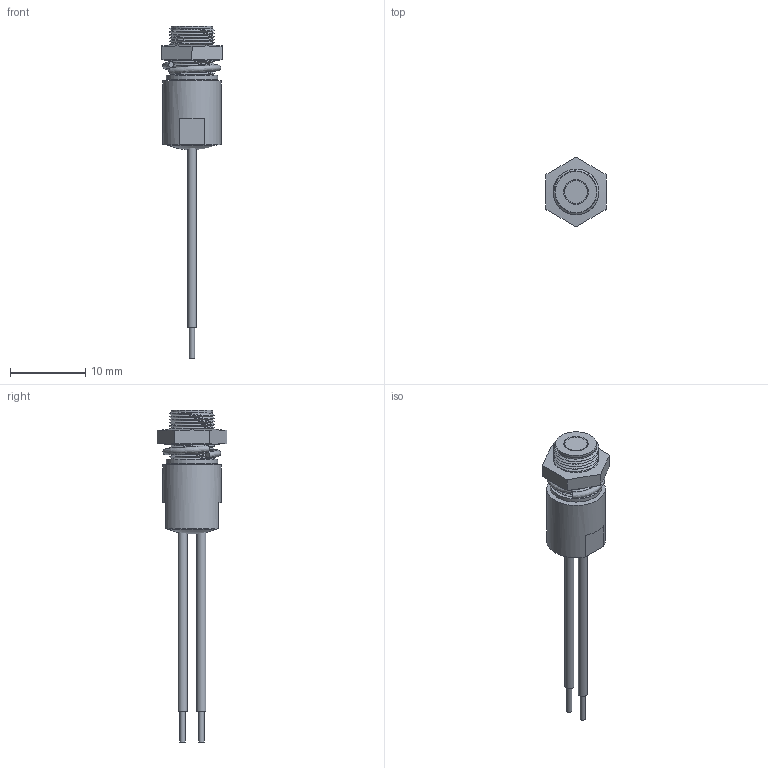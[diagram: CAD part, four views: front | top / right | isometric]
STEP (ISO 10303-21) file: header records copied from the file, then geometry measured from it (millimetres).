
FILE_DESCRIPTION(/* description */ ('AdapterTestApp'),/* implementation_level */ '2;1');
FILE_NAME(/* name */ 'QRM65B',/* time_stamp */ '2017-06-28T12:42:14+01:00',/* author */ ('AdapterTestApp'),/* organization */ ('Siemens PLM Software'),/* preprocessor_version */ 'ST-DEVELOPER v15.6',/* originating_system */ 'DEX',/* authorisation */ $);
FILE_SCHEMA (('AUTOMOTIVE_DESIGN {1 0 10303 214 3 1 1}'));
Length unit declared in the file: millimetre
Products named in the file (9): QRM65BYYRG02E; 34-0260iss1; 3mmLED-flush-cut-1; 21-0025; wire-black-7-20.0; wire-red-7-20.0; 26-0047; 13-0035; 6mm rear mount potting
Assembly tree (8 placements, depth 2):
  QRM65BYYRG02E
    34-0260iss1
    3mmLED-flush-cut-1
    21-0025
    wire-black-7-20.0
    wire-red-7-20.0
    26-0047
    13-0035
    6mm rear mount potting
Bounding box: 8 x 9.24 x 44.1 mm (x, y, z)
Volume: 696.3 mm3; surface area: 1455.2 mm2
Topology: 8 solids, 8 shells, 93 faces, 181 edges, 117 vertices
Faces by surface type: plane 58, cylinder 24, bspline 5, cone 3, torus 3
Full cylindrical faces by diameter (mm): 0.5 x3, 0.7 x4, 1 x2, 1.2 x2, 3 x1, 3.1 x1, 3.4 x1, 4.3 x1, 5.25 x1, 5.5 x1, 5.75 x1, 5.9 x1, 6.5 x1, 6.9 x1, 7.8 x1
Entity records: 5449 total; most frequent: CARTESIAN_POINT 3551, DIRECTION 370, ORIENTED_EDGE 286, AXIS2_PLACEMENT_3D 160, EDGE_CURVE 143, FACE_BOUND 142, EDGE_LOOP 141, VERTEX_POINT 109
